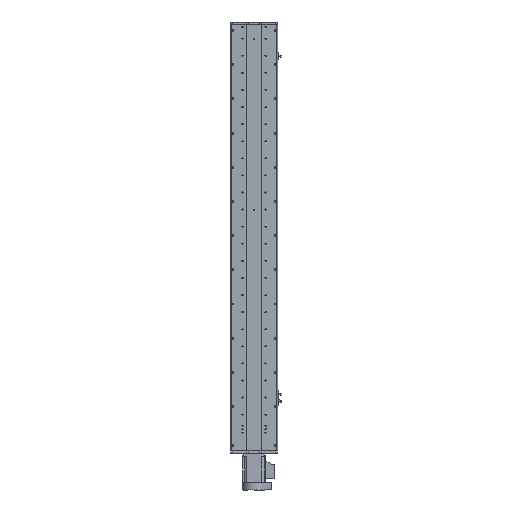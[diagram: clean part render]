
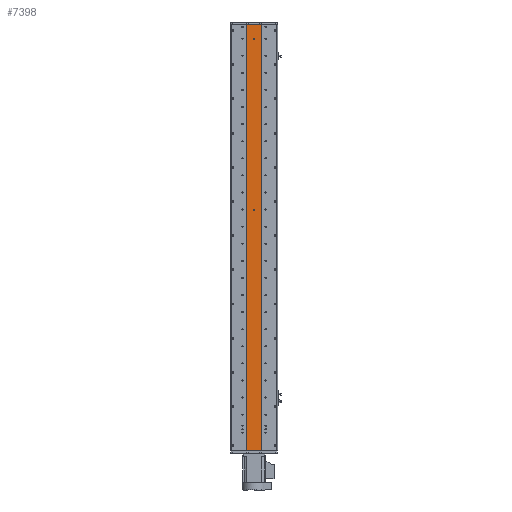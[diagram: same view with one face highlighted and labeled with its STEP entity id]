
A CAD part, front view. The second image highlights one B-rep face of the part: STEP entity #7398.
In plain terms, the highlighted planar face has unit normal (0, -1, 0).
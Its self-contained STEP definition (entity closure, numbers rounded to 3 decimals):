
#141 = DIRECTION ( 'NONE',  ( 0., 0., -1. ) ) ;
#1090 = PLANE ( 'NONE',  #34380 ) ;
#1329 = EDGE_CURVE ( 'NONE', #10907, #39187, #28345, .T. ) ;
#1875 = VECTOR ( 'NONE', #3563, 1000. ) ;
#2826 = VECTOR ( 'NONE', #35989, 1000. ) ;
#3563 = DIRECTION ( 'NONE',  ( 1., 0., 0. ) ) ;
#4048 = EDGE_CURVE ( 'NONE', #29689, #35277, #11486, .T. ) ;
#4209 = EDGE_LOOP ( 'NONE', ( #28926, #6652, #12421, #35349 ) ) ;
#4490 = FACE_BOUND ( 'NONE', #29935, .T. ) ;
#4902 = CARTESIAN_POINT ( 'NONE',  ( 0., 1., 695. ) ) ;
#5657 = VECTOR ( 'NONE', #25963, 1000. ) ;
#5988 = CARTESIAN_POINT ( 'NONE',  ( 0., 1., 701. ) ) ;
#6222 = CARTESIAN_POINT ( 'NONE',  ( 25., 1., 748. ) ) ;
#6314 = CARTESIAN_POINT ( 'NONE',  ( 0., 1., 698. ) ) ;
#6343 = CIRCLE ( 'NONE', #15630, 3. ) ;
#6652 = ORIENTED_EDGE ( 'NONE', *, *, #35448, .F. ) ;
#7398 = ADVANCED_FACE ( 'NONE', ( #4490, #21052, #12291 ), #1090, .F. ) ;
#7700 = CARTESIAN_POINT ( 'NONE',  ( 25., 1., 748. ) ) ;
#8392 = CARTESIAN_POINT ( 'NONE',  ( 25., 1., -748. ) ) ;
#8637 = CARTESIAN_POINT ( 'NONE',  ( 0., 1., 95. ) ) ;
#8709 = DIRECTION ( 'NONE',  ( 0., -1., 0. ) ) ;
#9652 = DIRECTION ( 'NONE',  ( 0., 0., -1. ) ) ;
#9678 = DIRECTION ( 'NONE',  ( 0., -1., 0. ) ) ;
#10132 = EDGE_CURVE ( 'NONE', #35277, #29689, #6343, .T. ) ;
#10907 = VERTEX_POINT ( 'NONE', #8637 ) ;
#11041 = DIRECTION ( 'NONE',  ( 0., 0., 1. ) ) ;
#11486 = CIRCLE ( 'NONE', #17335, 3. ) ;
#11579 = LINE ( 'NONE', #6222, #2826 ) ;
#11900 = VERTEX_POINT ( 'NONE', #8392 ) ;
#12291 = FACE_OUTER_BOUND ( 'NONE', #4209, .T. ) ;
#12421 = ORIENTED_EDGE ( 'NONE', *, *, #28788, .F. ) ;
#14349 = LINE ( 'NONE', #38405, #39661 ) ;
#15380 = ORIENTED_EDGE ( 'NONE', *, *, #28692, .F. ) ;
#15630 = AXIS2_PLACEMENT_3D ( 'NONE', #6314, #29373, #9652 ) ;
#15995 = CARTESIAN_POINT ( 'NONE',  ( -25., 1., 748. ) ) ;
#17335 = AXIS2_PLACEMENT_3D ( 'NONE', #39693, #19954, #141 ) ;
#18821 = DIRECTION ( 'NONE',  ( 1., 0., 0. ) ) ;
#19194 = VERTEX_POINT ( 'NONE', #40314 ) ;
#19339 = EDGE_CURVE ( 'NONE', #29728, #11900, #14349, .T. ) ;
#19458 = LINE ( 'NONE', #23368, #1875 ) ;
#19954 = DIRECTION ( 'NONE',  ( 0., -1., 0. ) ) ;
#21052 = FACE_BOUND ( 'NONE', #28264, .T. ) ;
#21755 = ORIENTED_EDGE ( 'NONE', *, *, #10132, .F. ) ;
#23041 = ORIENTED_EDGE ( 'NONE', *, *, #4048, .F. ) ;
#23256 = LINE ( 'NONE', #15995, #5657 ) ;
#23368 = CARTESIAN_POINT ( 'NONE',  ( 25., 1., 748. ) ) ;
#25675 = CIRCLE ( 'NONE', #42711, 3. ) ;
#25899 = CARTESIAN_POINT ( 'NONE',  ( -25., 1., -748. ) ) ;
#25963 = DIRECTION ( 'NONE',  ( 0., 0., -1. ) ) ;
#28264 = EDGE_LOOP ( 'NONE', ( #28561, #15380 ) ) ;
#28345 = CIRCLE ( 'NONE', #30740, 3. ) ;
#28456 = CARTESIAN_POINT ( 'NONE',  ( 0., 1., 98. ) ) ;
#28561 = ORIENTED_EDGE ( 'NONE', *, *, #1329, .F. ) ;
#28654 = CARTESIAN_POINT ( 'NONE',  ( 0., 1., 101. ) ) ;
#28692 = EDGE_CURVE ( 'NONE', #39187, #10907, #25675, .T. ) ;
#28788 = EDGE_CURVE ( 'NONE', #30216, #19194, #19458, .T. ) ;
#28926 = ORIENTED_EDGE ( 'NONE', *, *, #19339, .T. ) ;
#29373 = DIRECTION ( 'NONE',  ( 0., -1., 0. ) ) ;
#29398 = CARTESIAN_POINT ( 'NONE',  ( 0., 1., 98. ) ) ;
#29689 = VERTEX_POINT ( 'NONE', #5988 ) ;
#29728 = VERTEX_POINT ( 'NONE', #25899 ) ;
#29935 = EDGE_LOOP ( 'NONE', ( #21755, #23041 ) ) ;
#30216 = VERTEX_POINT ( 'NONE', #37950 ) ;
#30740 = AXIS2_PLACEMENT_3D ( 'NONE', #28456, #8709, #31804 ) ;
#30789 = DIRECTION ( 'NONE',  ( 0., 1., 0. ) ) ;
#31804 = DIRECTION ( 'NONE',  ( 0., 0., -1. ) ) ;
#32758 = DIRECTION ( 'NONE',  ( 0., 0., -1. ) ) ;
#34380 = AXIS2_PLACEMENT_3D ( 'NONE', #7700, #30789, #11041 ) ;
#35277 = VERTEX_POINT ( 'NONE', #4902 ) ;
#35349 = ORIENTED_EDGE ( 'NONE', *, *, #37580, .T. ) ;
#35448 = EDGE_CURVE ( 'NONE', #19194, #11900, #11579, .T. ) ;
#35989 = DIRECTION ( 'NONE',  ( 0., 0., -1. ) ) ;
#37580 = EDGE_CURVE ( 'NONE', #30216, #29728, #23256, .T. ) ;
#37950 = CARTESIAN_POINT ( 'NONE',  ( -25., 1., 748. ) ) ;
#38405 = CARTESIAN_POINT ( 'NONE',  ( 25., 1., -748. ) ) ;
#39187 = VERTEX_POINT ( 'NONE', #28654 ) ;
#39661 = VECTOR ( 'NONE', #18821, 1000. ) ;
#39693 = CARTESIAN_POINT ( 'NONE',  ( 0., 1., 698. ) ) ;
#40314 = CARTESIAN_POINT ( 'NONE',  ( 25., 1., 748. ) ) ;
#42711 = AXIS2_PLACEMENT_3D ( 'NONE', #29398, #9678, #32758 ) ;
